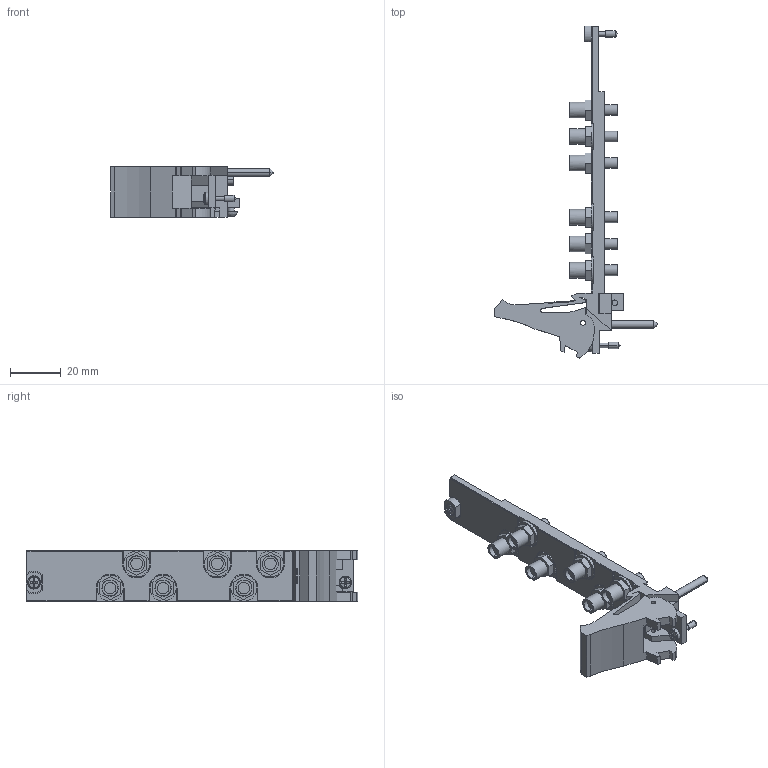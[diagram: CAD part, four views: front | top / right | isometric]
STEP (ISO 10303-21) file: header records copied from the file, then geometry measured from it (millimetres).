
FILE_DESCRIPTION((''),'2;1');
FILE_NAME('CU_PXI-2549','2009-11-10T',('jjorden'),(''),'PRO/ENGINEER BY PARAMETRIC TECHNOLOGY CORPORATION, 2006080','PRO/ENGINEER BY PARAMETRIC TECHNOLOGY CORPORATION, 2006080','');
FILE_SCHEMA(('CONFIG_CONTROL_DESIGN'));
Length unit declared in the file: inch
Products named in the file (1): CU_PXI-2549
Bounding box: 63.73 x 130.43 x 20.02 mm (x, y, z)
Volume: 19730.5 mm3; surface area: 15859.1 mm2
Topology: 1 solids, 1 shells, 655 faces, 1668 edges, 1080 vertices
Faces by surface type: plane 412, cylinder 197, cone 26, sphere 8, torus 6, bspline 6
Entity records: 20335 total; most frequent: CARTESIAN_POINT 4058, DIRECTION 3418, ORIENTED_EDGE 3320, EDGE_CURVE 1660, AXIS2_PLACEMENT_3D 1142, VECTOR 1134, LINE 1134, VERTEX_POINT 1099
